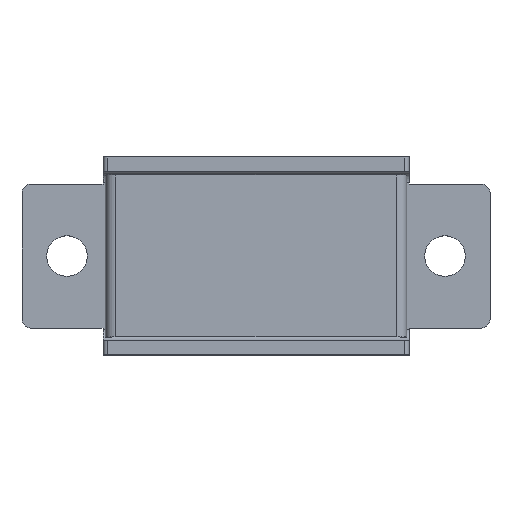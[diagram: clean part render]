
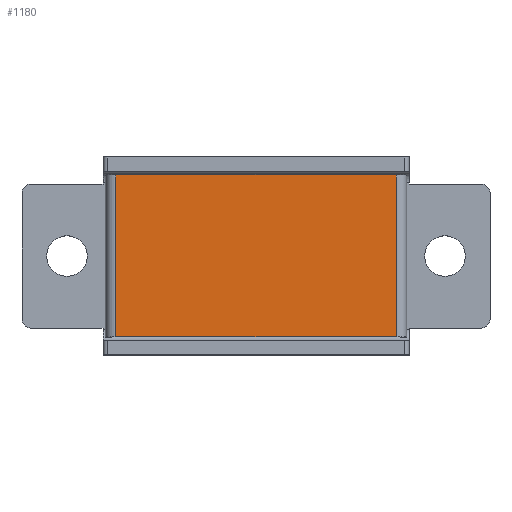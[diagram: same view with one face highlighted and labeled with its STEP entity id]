
A CAD part, top view. The second image highlights one B-rep face of the part: STEP entity #1180.
In plain terms, the highlighted planar face has unit normal (0, 0, 1).
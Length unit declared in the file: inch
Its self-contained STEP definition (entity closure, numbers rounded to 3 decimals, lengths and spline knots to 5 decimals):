
#64 = CARTESIAN_POINT ( 'NONE',  ( 0.97563, -0.5625, 0.217 ) ) ;
#79 = CARTESIAN_POINT ( 'NONE',  ( -0.97563, 0.5625, 0.217 ) ) ;
#87 = PLANE ( 'NONE',  #912 ) ;
#90 = ORIENTED_EDGE ( 'NONE', *, *, #250, .T. ) ;
#127 = DIRECTION ( 'NONE',  ( 1., 0., 0. ) ) ;
#143 = ORIENTED_EDGE ( 'NONE', *, *, #712, .F. ) ;
#250 = EDGE_CURVE ( 'NONE', #601, #1974, #1907, .T. ) ;
#263 = EDGE_LOOP ( 'NONE', ( #1656, #90, #143, #1758 ) ) ;
#309 = LINE ( 'NONE', #1686, #1011 ) ;
#392 = FACE_OUTER_BOUND ( 'NONE', #263, .T. ) ;
#408 = DIRECTION ( 'NONE',  ( 1., 0., 0. ) ) ;
#455 = DIRECTION ( 'NONE',  ( 0., -1., 0. ) ) ;
#509 = LINE ( 'NONE', #766, #730 ) ;
#601 = VERTEX_POINT ( 'NONE', #79 ) ;
#610 = VECTOR ( 'NONE', #1774, 39.37008 ) ;
#615 = CARTESIAN_POINT ( 'NONE',  ( -0.97563, 0.5625, 0.217 ) ) ;
#616 = CARTESIAN_POINT ( 'NONE',  ( 0.97563, 0.5625, 0.217 ) ) ;
#712 = EDGE_CURVE ( 'NONE', #1880, #1974, #309, .T. ) ;
#730 = VECTOR ( 'NONE', #127, 39.37008 ) ;
#766 = CARTESIAN_POINT ( 'NONE',  ( 1.01563, 0.5625, 0.217 ) ) ;
#870 = DIRECTION ( 'NONE',  ( 0., 0., 1. ) ) ;
#912 = AXIS2_PLACEMENT_3D ( 'NONE', #1507, #870, #408 ) ;
#914 = CARTESIAN_POINT ( 'NONE',  ( 0.97563, -0.5625, 0.217 ) ) ;
#1011 = VECTOR ( 'NONE', #1356, 39.37008 ) ;
#1084 = VECTOR ( 'NONE', #455, 39.37008 ) ;
#1180 = ADVANCED_FACE ( 'NONE', ( #392 ), #87, .T. ) ;
#1356 = DIRECTION ( 'NONE',  ( -1., 0., 0. ) ) ;
#1507 = CARTESIAN_POINT ( 'NONE',  ( -1.01563, 0.5625, 0.217 ) ) ;
#1656 = ORIENTED_EDGE ( 'NONE', *, *, #1876, .F. ) ;
#1671 = EDGE_CURVE ( 'NONE', #1880, #1939, #1850, .T. ) ;
#1686 = CARTESIAN_POINT ( 'NONE',  ( 1.01563, -0.5625, 0.217 ) ) ;
#1758 = ORIENTED_EDGE ( 'NONE', *, *, #1671, .T. ) ;
#1774 = DIRECTION ( 'NONE',  ( 0., 1., 0. ) ) ;
#1850 = LINE ( 'NONE', #64, #610 ) ;
#1873 = CARTESIAN_POINT ( 'NONE',  ( -0.97563, -0.5625, 0.217 ) ) ;
#1876 = EDGE_CURVE ( 'NONE', #601, #1939, #509, .T. ) ;
#1880 = VERTEX_POINT ( 'NONE', #914 ) ;
#1907 = LINE ( 'NONE', #615, #1084 ) ;
#1939 = VERTEX_POINT ( 'NONE', #616 ) ;
#1974 = VERTEX_POINT ( 'NONE', #1873 ) ;
